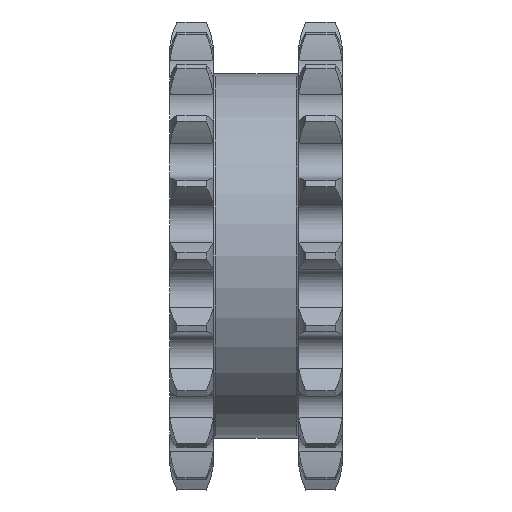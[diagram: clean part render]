
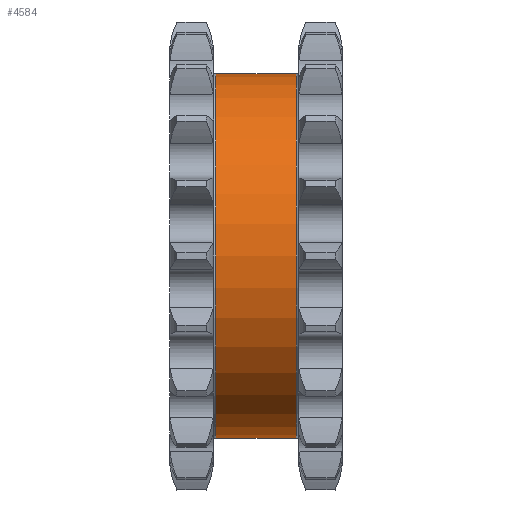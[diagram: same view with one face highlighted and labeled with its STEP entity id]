
A CAD part, front view. The second image highlights one B-rep face of the part: STEP entity #4584.
In plain terms, the highlighted cylindrical face has radius 67.5 mm (diameter 135 mm), a full revolution.
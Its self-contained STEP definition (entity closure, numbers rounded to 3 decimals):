
#102=FACE_BOUND('',#606,.T.);
#352=FACE_OUTER_BOUND('',#605,.T.);
#605=EDGE_LOOP('',(#4071));
#606=EDGE_LOOP('',(#4072));
#863=CIRCLE('',#5076,67.5);
#864=CIRCLE('',#5078,67.5);
#1993=VERTEX_POINT('',#9231);
#1994=VERTEX_POINT('',#9234);
#2719=EDGE_CURVE('',#1993,#1993,#863,.T.);
#2720=EDGE_CURVE('',#1994,#1994,#864,.T.);
#4071=ORIENTED_EDGE('',*,*,#2719,.T.);
#4072=ORIENTED_EDGE('',*,*,#2720,.F.);
#4341=CYLINDRICAL_SURFACE('',#5077,67.5);
#4584=ADVANCED_FACE('',(#352,#102),#4341,.T.);
#5076=AXIS2_PLACEMENT_3D('',#9232,#6215,#6216);
#5077=AXIS2_PLACEMENT_3D('',#9233,#6217,#6218);
#5078=AXIS2_PLACEMENT_3D('',#9235,#6219,#6220);
#6215=DIRECTION('center_axis',(-1.,0.,0.));
#6216=DIRECTION('ref_axis',(0.,0.,1.));
#6217=DIRECTION('center_axis',(-1.,0.,0.));
#6218=DIRECTION('ref_axis',(0.,-1.,0.));
#6219=DIRECTION('center_axis',(-1.,0.,0.));
#6220=DIRECTION('ref_axis',(0.,0.,1.));
#9231=CARTESIAN_POINT('',(39.871,4.578,0.));
#9232=CARTESIAN_POINT('Origin',(39.871,72.078,0.));
#9233=CARTESIAN_POINT('Origin',(24.871,72.078,0.));
#9234=CARTESIAN_POINT('',(9.871,4.578,0.));
#9235=CARTESIAN_POINT('Origin',(9.871,72.078,0.));
